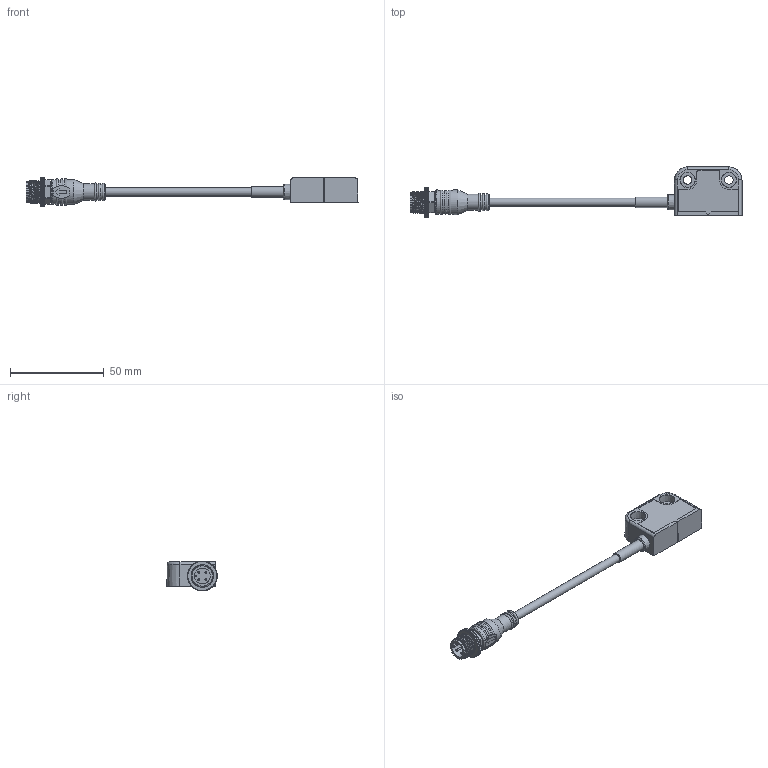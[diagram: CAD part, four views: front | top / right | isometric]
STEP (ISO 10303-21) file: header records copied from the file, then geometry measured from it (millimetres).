
FILE_DESCRIPTION(/* description */ (''),/* implementation_level */ '2;1');
FILE_NAME(/* name */ 'V:/a TO PERSON/Vilius/MC36/3D/Product_models/MC36CHxxxRT1 v1.step',/* time_stamp */ '2022-01-27T13:04:17+02:00',/* author */ (''),/* organization */ (''),/* preprocessor_version */ 'ST-DEVELOPER v18.1',/* originating_system */ 'Autodesk Translation Framework v10.10.0.1391',/* authorisation */ '');
FILE_SCHEMA (('AUTOMOTIVE_DESIGN { 1 0 10303 214 3 1 1 }'));
Length unit declared in the file: millimetre
Products named in the file (2): MC36CHxxxRT1; _M12_pigtail.e7c0c495-f55b-43fc-9cd4-ada7be4faf41
Assembly tree (1 placements, depth 2):
  MC36CHxxxRT1
    _M12_pigtail.e7c0c495-f55b-43fc-9cd4-ada7be4faf41
Bounding box: 176.85 x 26.79 x 15.8 mm (x, y, z)
Volume: 9455.2 mm3; surface area: 11044.1 mm2
Topology: 9 solids, 9 shells, 770 faces, 2176 edges, 1446 vertices
Faces by surface type: plane 389, cylinder 316, cone 43, torus 13, bspline 9
Full cylindrical faces by diameter (mm): 1 x4, 4.4 x2, 5.6 x1, 7.8 x1, 8 x2, 8.151 x2, 8.2 x2, 8.4 x1, 8.615 x1, 9.8 x2, 10.741 x5, 10.8 x1, 11.884 x6, 13.316 x2
Entity records: 27216 total; most frequent: CARTESIAN_POINT 6612, ORIENTED_EDGE 4352, DIRECTION 4337, EDGE_CURVE 2176, AXIS2_PLACEMENT_3D 1479, VERTEX_POINT 1446, LINE 1379, VECTOR 1379
